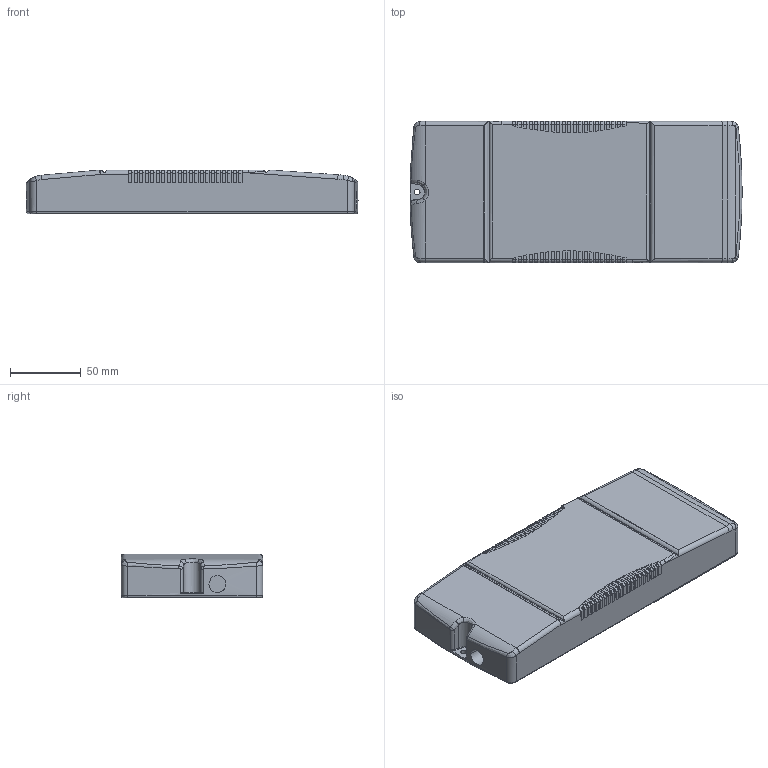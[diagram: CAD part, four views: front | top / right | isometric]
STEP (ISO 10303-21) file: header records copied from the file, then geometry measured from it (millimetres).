
FILE_DESCRIPTION((''),'2;1');
FILE_NAME('15008175Z_ZCI7','2014-02-13T',('juergen.hrach'),(''),'PRO/ENGINEER BY PARAMETRIC TECHNOLOGY CORPORATION, 2013410','PRO/ENGINEER BY PARAMETRIC TECHNOLOGY CORPORATION, 2013410','');
FILE_SCHEMA(('AUTOMOTIVE_DESIGN { 1 0 10303 214 1 1 1 1 }'));
Length unit declared in the file: millimetre
Products named in the file (1): 15008175Z_ZCI7
Bounding box: 234.97 x 100 x 31 mm (x, y, z)
Volume: 667130.5 mm3; surface area: 72645.9 mm2
Topology: 1 solids, 1 shells, 435 faces, 1241 edges, 813 vertices
Faces by surface type: plane 230, cylinder 167, bspline 22, torus 15, sphere 1
Entity records: 20537 total; most frequent: CARTESIAN_POINT 5057, ORIENTED_EDGE 2482, DIRECTION 2274, PRESENTATION_STYLE_ASSIGNMENT 1242, STYLED_ITEM 1242, CURVE_STYLE 1241, EDGE_CURVE 1241, VECTOR 820
